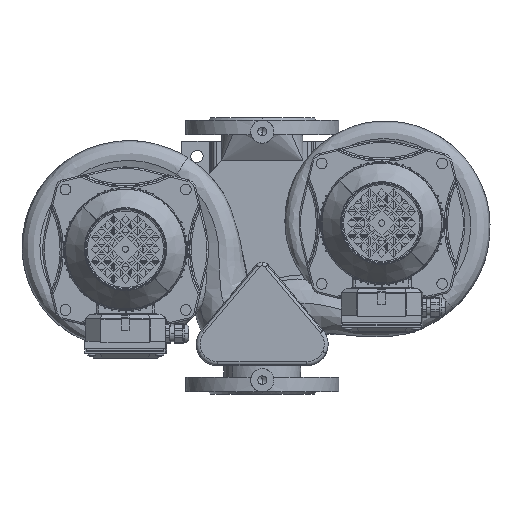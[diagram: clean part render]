
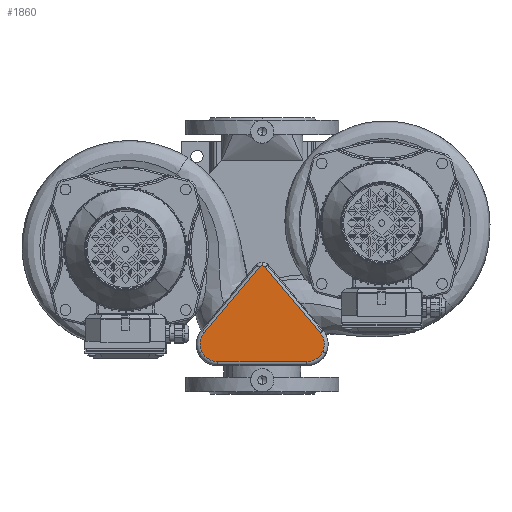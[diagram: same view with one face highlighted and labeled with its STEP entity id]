
A CAD part, top view. The second image highlights one B-rep face of the part: STEP entity #1860.
In plain terms, the highlighted planar face has unit normal (0, 0, 1).
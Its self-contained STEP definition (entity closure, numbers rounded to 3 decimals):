
#1860=ADVANCED_FACE('',(#3726),#3727,.T.);
#3726=FACE_OUTER_BOUND('',#8553,.T.);
#3727=PLANE('',#8554);
#8553=EDGE_LOOP('',(#19584,#19585,#19586,#19587,#19588,#19589,#19590,#19591,#19592));
#8554=AXIS2_PLACEMENT_3D('',#19593,#19594,#19595);
#19584=ORIENTED_EDGE('',*,*,#41837,.F.);
#19585=ORIENTED_EDGE('',*,*,#41831,.F.);
#19586=ORIENTED_EDGE('',*,*,#41845,.F.);
#19587=ORIENTED_EDGE('',*,*,#41827,.F.);
#19588=ORIENTED_EDGE('',*,*,#41821,.F.);
#19589=ORIENTED_EDGE('',*,*,#41851,.F.);
#19590=ORIENTED_EDGE('',*,*,#41817,.F.);
#19591=ORIENTED_EDGE('',*,*,#41811,.F.);
#19592=ORIENTED_EDGE('',*,*,#41856,.F.);
#19593=CARTESIAN_POINT('',(-57.895,143.0,50.0));
#19594=DIRECTION('',(0.0,0.0,1.0));
#19595=DIRECTION('',(1.0,0.0,0.0));
#41811=EDGE_CURVE('',#62442,#62445,#62446,.T.);
#41817=EDGE_CURVE('',#62445,#62455,#62456,.T.);
#41821=EDGE_CURVE('',#62459,#62462,#62463,.T.);
#41827=EDGE_CURVE('',#62462,#62472,#62473,.T.);
#41831=EDGE_CURVE('',#62476,#62479,#62480,.T.);
#41837=EDGE_CURVE('',#62479,#62489,#62490,.T.);
#41845=EDGE_CURVE('',#62472,#62476,#62500,.T.);
#41851=EDGE_CURVE('',#62455,#62459,#62507,.T.);
#41856=EDGE_CURVE('',#62489,#62442,#62512,.T.);
#62442=VERTEX_POINT('',#70645);
#62445=VERTEX_POINT('',#70648);
#62446=CIRCLE('',#70649,23.0);
#62455=VERTEX_POINT('',#70659);
#62456=LINE('',#70660,#70661);
#62459=VERTEX_POINT('',#70664);
#62462=VERTEX_POINT('',#70667);
#62463=CIRCLE('',#70668,5.0);
#62472=VERTEX_POINT('',#70678);
#62473=LINE('',#70679,#70680);
#62476=VERTEX_POINT('',#70683);
#62479=VERTEX_POINT('',#70686);
#62480=CIRCLE('',#70687,23.0);
#62489=VERTEX_POINT('',#70697);
#62490=LINE('',#70698,#70699);
#62500=CIRCLE('',#70710,23.0);
#62507=CIRCLE('',#70718,5.0);
#62512=CIRCLE('',#70724,23.0);
#70645=CARTESIAN_POINT('',(78.74,124.72,50.0));
#70648=CARTESIAN_POINT('',(75.514,100.216,50.0));
#70649=AXIS2_PLACEMENT_3D('',#84320,#84321,#84322);
#70659=CARTESIAN_POINT('',(3.83,14.786,50.0));
#70660=CARTESIAN_POINT('',(58.487,79.924,50.0));
#70661=VECTOR('',#84333,1.);
#70664=CARTESIAN_POINT('',(0.,13.0,50.0));
#70667=CARTESIAN_POINT('',(-3.83,14.786,50.0));
#70668=AXIS2_PLACEMENT_3D('',#84340,#84341,#84342);
#70678=CARTESIAN_POINT('',(-75.514,100.216,50.0));
#70679=CARTESIAN_POINT('',(-46.566,65.717,50.0));
#70680=VECTOR('',#84353,1.0);
#70683=CARTESIAN_POINT('',(-78.74,124.72,50.0));
#70686=CARTESIAN_POINT('',(-57.895,138.0,50.0));
#70687=AXIS2_PLACEMENT_3D('',#84360,#84361,#84362);
#70697=CARTESIAN_POINT('',(57.895,138.0,50.0));
#70698=CARTESIAN_POINT('',(-57.895,138.0,50.0));
#70699=VECTOR('',#84373,1.0);
#70710=AXIS2_PLACEMENT_3D('',#84387,#84388,#84389);
#70718=AXIS2_PLACEMENT_3D('',#84397,#84398,#84399);
#70724=AXIS2_PLACEMENT_3D('',#84404,#84405,#84406);
#84320=CARTESIAN_POINT('',(57.895,115.0,50.0));
#84321=DIRECTION('',(0.0,0.0,-1.0));
#84322=DIRECTION('',(0.906,0.423,0.0));
#84333=DIRECTION('',(-0.643,-0.766,0.0));
#84340=CARTESIAN_POINT('',(0.0,18.0,50.0));
#84341=DIRECTION('',(0.0,0.0,-1.0));
#84342=DIRECTION('',(0.,-1.0,0.0));
#84353=DIRECTION('',(-0.643,0.766,0.0));
#84360=CARTESIAN_POINT('',(-57.895,115.0,50.0));
#84361=DIRECTION('',(0.0,0.0,-1.0));
#84362=DIRECTION('',(-0.906,0.423,0.0));
#84373=DIRECTION('',(1.0,0.0,0.0));
#84387=CARTESIAN_POINT('',(-57.895,115.0,50.0));
#84388=DIRECTION('',(0.0,0.0,-1.0));
#84389=DIRECTION('',(-0.906,0.423,0.0));
#84397=CARTESIAN_POINT('',(0.0,18.0,50.0));
#84398=DIRECTION('',(0.0,0.0,-1.0));
#84399=DIRECTION('',(0.,-1.0,0.0));
#84404=CARTESIAN_POINT('',(57.895,115.0,50.0));
#84405=DIRECTION('',(0.0,0.0,-1.0));
#84406=DIRECTION('',(0.906,0.423,0.0));
